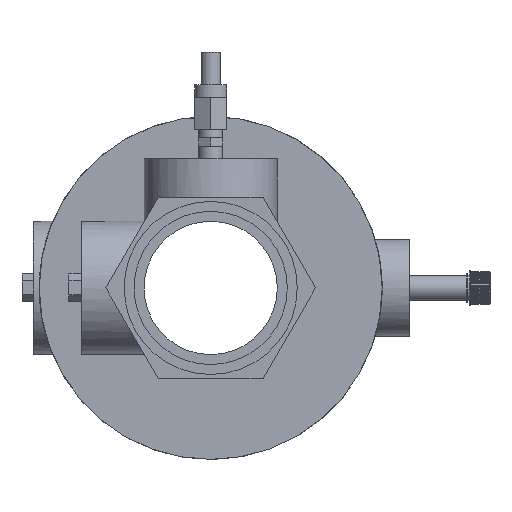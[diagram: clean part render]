
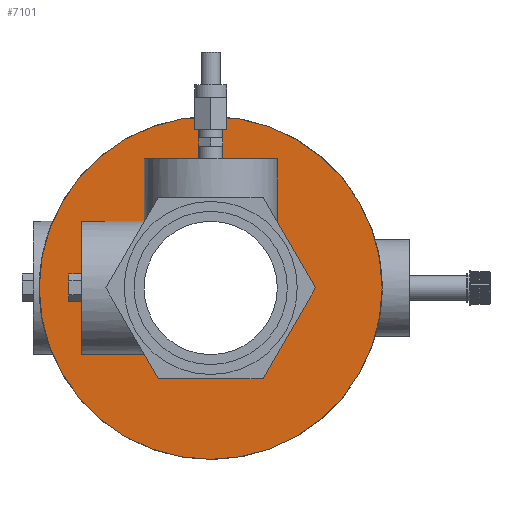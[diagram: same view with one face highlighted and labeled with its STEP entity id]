
A CAD part, left-side view. The second image highlights one B-rep face of the part: STEP entity #7101.
In plain terms, the highlighted planar face has unit normal (-1, 0, 0).
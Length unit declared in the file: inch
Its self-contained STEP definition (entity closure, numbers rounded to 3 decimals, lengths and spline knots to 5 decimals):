
#199=FACE_BOUND('',#1121,.T.);
#251=CIRCLE('',#7517,2.65812);
#252=CIRCLE('',#7518,2.65812);
#259=CIRCLE('',#7532,1.35729);
#261=CIRCLE('',#7534,1.35729);
#744=FACE_OUTER_BOUND('',#1120,.T.);
#1120=EDGE_LOOP('',(#4726,#4727));
#1121=EDGE_LOOP('',(#4728,#4729,#4730,#4731,#4732,#4733,#4734,#4735));
#1568=LINE('',#10593,#2173);
#1574=LINE('',#10641,#2179);
#1575=LINE('',#10643,#2180);
#1578=LINE('',#10688,#2183);
#1579=LINE('',#10690,#2184);
#1580=LINE('',#10691,#2185);
#2173=VECTOR('',#8475,0.3937);
#2179=VECTOR('',#8489,0.3937);
#2180=VECTOR('',#8492,0.3937);
#2183=VECTOR('',#8505,0.3937);
#2184=VECTOR('',#8506,0.3937);
#2185=VECTOR('',#8507,0.3937);
#2746=VERTEX_POINT('',#10485);
#2752=VERTEX_POINT('',#10535);
#2759=VERTEX_POINT('',#10589);
#2761=VERTEX_POINT('',#10592);
#2766=VERTEX_POINT('',#10637);
#2767=VERTEX_POINT('',#10639);
#2768=VERTEX_POINT('',#10645);
#2770=VERTEX_POINT('',#10650);
#2772=VERTEX_POINT('',#10687);
#2773=VERTEX_POINT('',#10689);
#3500=EDGE_CURVE('',#2752,#2746,#251,.T.);
#3501=EDGE_CURVE('',#2746,#2752,#252,.T.);
#3511=EDGE_CURVE('',#2761,#2759,#1568,.T.);
#3520=EDGE_CURVE('',#2766,#2767,#1574,.T.);
#3521=EDGE_CURVE('',#2767,#2761,#1575,.T.);
#3522=EDGE_CURVE('',#2766,#2768,#259,.T.);
#3525=EDGE_CURVE('',#2768,#2770,#261,.T.);
#3528=EDGE_CURVE('',#2759,#2772,#1578,.T.);
#3529=EDGE_CURVE('',#2772,#2773,#1579,.T.);
#3530=EDGE_CURVE('',#2773,#2770,#1580,.T.);
#4726=ORIENTED_EDGE('',*,*,#3500,.F.);
#4727=ORIENTED_EDGE('',*,*,#3501,.F.);
#4728=ORIENTED_EDGE('',*,*,#3521,.T.);
#4729=ORIENTED_EDGE('',*,*,#3511,.T.);
#4730=ORIENTED_EDGE('',*,*,#3528,.T.);
#4731=ORIENTED_EDGE('',*,*,#3529,.T.);
#4732=ORIENTED_EDGE('',*,*,#3530,.T.);
#4733=ORIENTED_EDGE('',*,*,#3525,.F.);
#4734=ORIENTED_EDGE('',*,*,#3522,.F.);
#4735=ORIENTED_EDGE('',*,*,#3520,.T.);
#6518=PLANE('',#7535);
#7101=ADVANCED_FACE('',(#744,#199),#6518,.T.);
#7517=AXIS2_PLACEMENT_3D('',#10554,#8454,#8455);
#7518=AXIS2_PLACEMENT_3D('',#10555,#8456,#8457);
#7532=AXIS2_PLACEMENT_3D('',#10646,#8495,#8496);
#7534=AXIS2_PLACEMENT_3D('',#10651,#8500,#8501);
#7535=AXIS2_PLACEMENT_3D('',#10686,#8503,#8504);
#8454=DIRECTION('center_axis',(1.,0.,0.));
#8455=DIRECTION('ref_axis',(0.,0.,-1.));
#8456=DIRECTION('center_axis',(1.,0.,0.));
#8457=DIRECTION('ref_axis',(0.,0.,-1.));
#8475=DIRECTION('',(0.,-1.,0.));
#8489=DIRECTION('',(0.,1.,0.));
#8492=DIRECTION('',(0.,0.,1.));
#8495=DIRECTION('center_axis',(-1.,0.,0.));
#8496=DIRECTION('ref_axis',(0.,0.,1.));
#8500=DIRECTION('center_axis',(-1.,0.,0.));
#8501=DIRECTION('ref_axis',(0.,0.,1.));
#8503=DIRECTION('center_axis',(-1.,0.,0.));
#8504=DIRECTION('ref_axis',(0.,0.,1.));
#8505=DIRECTION('',(0.,0.,1.));
#8506=DIRECTION('',(0.,-1.,0.));
#8507=DIRECTION('',(0.,0.,-1.));
#10485=CARTESIAN_POINT('',(-1.64,2.65812,0.));
#10535=CARTESIAN_POINT('',(-1.64,-2.65812,0.));
#10554=CARTESIAN_POINT('Origin',(-1.64,0.,0.));
#10555=CARTESIAN_POINT('Origin',(-1.64,0.,0.));
#10589=CARTESIAN_POINT('',(-1.64,1.0335,1.0335));
#10592=CARTESIAN_POINT('',(-1.64,2.,1.0335));
#10593=CARTESIAN_POINT('',(-1.64,1.32906,1.0335));
#10637=CARTESIAN_POINT('',(-1.64,0.87984,-1.0335));
#10639=CARTESIAN_POINT('',(-1.64,2.,-1.0335));
#10641=CARTESIAN_POINT('',(-1.64,1.32906,-1.0335));
#10643=CARTESIAN_POINT('',(-1.64,2.,0.));
#10645=CARTESIAN_POINT('',(-1.64,0.,-1.35729));
#10646=CARTESIAN_POINT('Origin',(-1.64,0.,0.));
#10650=CARTESIAN_POINT('',(-1.64,-1.0335,0.87984));
#10651=CARTESIAN_POINT('Origin',(-1.64,0.,0.));
#10686=CARTESIAN_POINT('Origin',(-1.64,2.65812,0.));
#10687=CARTESIAN_POINT('',(-1.64,1.0335,2.));
#10688=CARTESIAN_POINT('',(-1.64,1.0335,0.));
#10689=CARTESIAN_POINT('',(-1.64,-1.0335,2.));
#10690=CARTESIAN_POINT('',(-1.64,1.32906,2.));
#10691=CARTESIAN_POINT('',(-1.64,-1.0335,0.));
